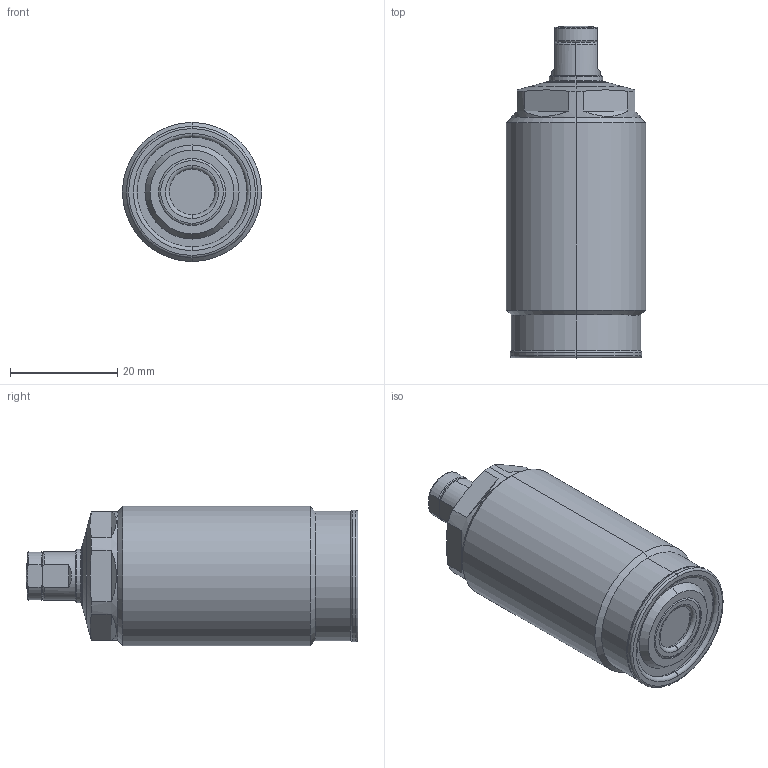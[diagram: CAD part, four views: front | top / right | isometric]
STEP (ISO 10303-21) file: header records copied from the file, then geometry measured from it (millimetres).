
FILE_DESCRIPTION(/* description */ (''),/* implementation_level */ '2;1');
FILE_NAME(/* name */ 'TNL26.stp',/* time_stamp */ '2022-11-17T13:19:50+08:00',/* author */ (''),/* organization */ (''),/* preprocessor_version */ 'ST-DEVELOPER v16.7',/* originating_system */ 'SIEMENS PLM Software NX 12.0',/* authorisation */ '');
FILE_SCHEMA (('AP203_CONFIGURATION_CONTROLLED_3D_DESIGN_OF_MECHANICAL_PARTS_AND_ASSEMBLIES_MIM_LF { 1 0 10303 403 2 1 2}'));
Length unit declared in the file: millimetre
Products named in the file (6): TNL26-02; TNL26-01; TNL26-03; TNL26-04; TNL26-05; WNC0603-x_step
Assembly tree (5 placements, depth 2):
  WNC0603-x_step
    TNL26-05
    TNL26-04
    TNL26-03
    TNL26-01
    TNL26-02
Bounding box: 26 x 62 x 26 mm (x, y, z)
Volume: 25960.5 mm3; surface area: 6702.2 mm2
Topology: 5 solids, 5 shells, 135 faces, 292 edges, 176 vertices
Faces by surface type: torus 39, cylinder 38, plane 36, cone 20, sphere 2
Entity records: 4575 total; most frequent: CARTESIAN_POINT 855, DIRECTION 726, ORIENTED_EDGE 584, AXIS2_PLACEMENT_3D 319, EDGE_CURVE 292, CIRCLE 178, VERTEX_POINT 176, EDGE_LOOP 150
